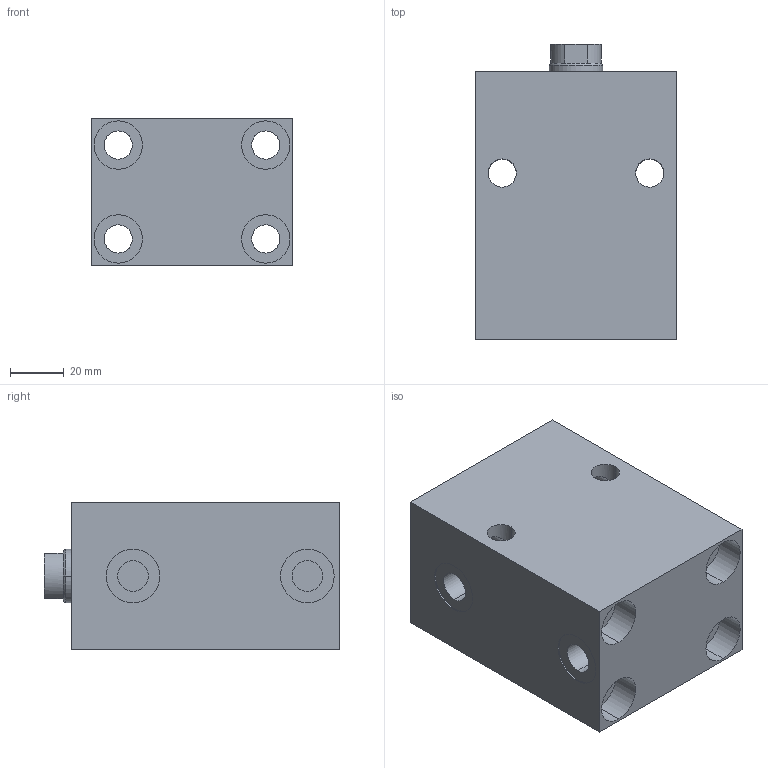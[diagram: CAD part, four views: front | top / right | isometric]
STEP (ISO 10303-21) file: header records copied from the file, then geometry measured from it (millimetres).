
FILE_DESCRIPTION (( 'STEP AP203' ), '1' );
FILE_NAME ('GERMA_Blockzylinder_600-032-050.STEP', '2015-06-20T18:08:26', ( '' ), ( '' ), 'SwSTEP 2.0', 'SolidWorks 2013', '' );
FILE_SCHEMA (( 'CONFIG_CONTROL_DESIGN' ));
Length unit declared in the file: millimetre
Products named in the file (3): GH-600-032_GH-600-032-050; Kolben 60x-032_Kolben DU.32-Hub50-IG; GERMA_Blockzylinder_600-032-050
Assembly tree (2 placements, depth 2):
  GERMA_Blockzylinder_600-032-050
    GH-600-032_GH-600-032-050
    Kolben 60x-032_Kolben DU.32-Hub50-IG
Bounding box: 75 x 110 x 55 mm (x, y, z)
Volume: 330322 mm3; surface area: 69397.4 mm2
Topology: 2 solids, 2 shells, 117 faces, 268 edges, 162 vertices
Faces by surface type: cylinder 73, plane 30, cone 14
Entity records: 3602 total; most frequent: CARTESIAN_POINT 642, DIRECTION 599, ORIENTED_EDGE 524, EDGE_CURVE 262, AXIS2_PLACEMENT_3D 247, VERTEX_POINT 162, EDGE_LOOP 150, CIRCLE 125
